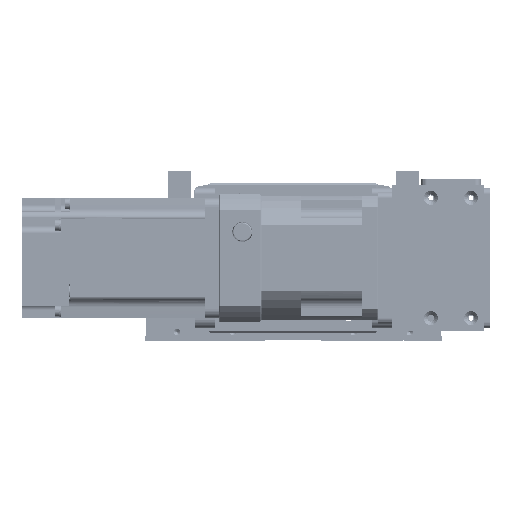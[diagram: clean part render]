
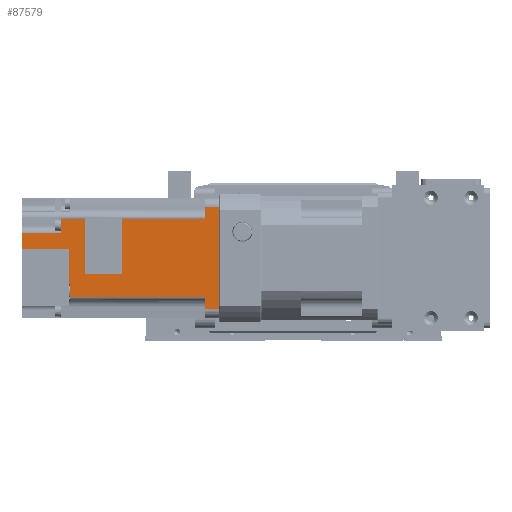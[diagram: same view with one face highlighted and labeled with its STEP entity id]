
A CAD part, front view. The second image highlights one B-rep face of the part: STEP entity #87579.
In plain terms, the highlighted planar face has unit normal (0, -1, 0).
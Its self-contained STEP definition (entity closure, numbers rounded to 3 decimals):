
#6697=FACE_OUTER_BOUND('',#11782,.T.);
#11782=EDGE_LOOP('',(#70858,#70859,#70860,#70861,#70862,#70863,#70864,#70865,
#70866,#70867,#70868,#70869,#70870,#70871,#70872,#70873,#70874,#70875,#70876,
#70877));
#21055=LINE('',#140799,#30494);
#21086=LINE('',#140919,#30525);
#21089=LINE('',#140930,#30528);
#21129=LINE('',#141045,#30568);
#21190=LINE('',#141255,#30629);
#21191=LINE('',#141260,#30630);
#21192=LINE('',#141262,#30631);
#21193=LINE('',#141263,#30632);
#21194=LINE('',#141265,#30633);
#21195=LINE('',#141267,#30634);
#21196=LINE('',#141269,#30635);
#21197=LINE('',#141271,#30636);
#21198=LINE('',#141273,#30637);
#21199=LINE('',#141275,#30638);
#21200=LINE('',#141277,#30639);
#21201=LINE('',#141279,#30640);
#21202=LINE('',#141280,#30641);
#21203=LINE('',#141282,#30642);
#21204=LINE('',#141284,#30643);
#21205=LINE('',#141285,#30644);
#30494=VECTOR('',#111612,51.);
#30525=VECTOR('',#111715,3.41);
#30528=VECTOR('',#111724,2.444);
#30568=VECTOR('',#111826,7.8);
#30629=VECTOR('',#112061,5.941);
#30630=VECTOR('',#112068,67.3);
#30631=VECTOR('',#112071,0.905);
#30632=VECTOR('',#112072,7.);
#30633=VECTOR('',#112073,7.);
#30634=VECTOR('',#112074,5.941);
#30635=VECTOR('',#112075,41.6);
#30636=VECTOR('',#112076,27.559);
#30637=VECTOR('',#112077,18.35);
#30638=VECTOR('',#112078,27.559);
#30639=VECTOR('',#112079,11.85);
#30640=VECTOR('',#112080,7.059);
#30641=VECTOR('',#112081,19.5);
#30642=VECTOR('',#112082,23.5);
#30643=VECTOR('',#112083,17.5);
#30644=VECTOR('',#112084,0.5);
#40113=VERTEX_POINT('',#140796);
#40114=VERTEX_POINT('',#140798);
#40164=VERTEX_POINT('',#140913);
#40166=VERTEX_POINT('',#140916);
#40167=VERTEX_POINT('',#140918);
#40172=VERTEX_POINT('',#140928);
#40215=VERTEX_POINT('',#141042);
#40216=VERTEX_POINT('',#141044);
#40277=VERTEX_POINT('',#141252);
#40278=VERTEX_POINT('',#141254);
#40280=VERTEX_POINT('',#141264);
#40281=VERTEX_POINT('',#141266);
#40282=VERTEX_POINT('',#141268);
#40283=VERTEX_POINT('',#141270);
#40284=VERTEX_POINT('',#141272);
#40285=VERTEX_POINT('',#141274);
#40286=VERTEX_POINT('',#141276);
#40287=VERTEX_POINT('',#141278);
#40288=VERTEX_POINT('',#141281);
#40289=VERTEX_POINT('',#141283);
#50864=EDGE_CURVE('',#40113,#40114,#21055,.T.);
#50923=EDGE_CURVE('',#40166,#40167,#21086,.T.);
#50929=EDGE_CURVE('',#40172,#40164,#21089,.T.);
#50987=EDGE_CURVE('',#40215,#40216,#21129,.T.);
#51091=EDGE_CURVE('',#40278,#40277,#21190,.T.);
#51094=EDGE_CURVE('',#40278,#40172,#21191,.T.);
#51095=EDGE_CURVE('',#40164,#40166,#21192,.T.);
#51096=EDGE_CURVE('',#40277,#40114,#21193,.T.);
#51097=EDGE_CURVE('',#40113,#40280,#21194,.T.);
#51098=EDGE_CURVE('',#40281,#40280,#21195,.T.);
#51099=EDGE_CURVE('',#40281,#40282,#21196,.T.);
#51100=EDGE_CURVE('',#40282,#40283,#21197,.T.);
#51101=EDGE_CURVE('',#40283,#40284,#21198,.T.);
#51102=EDGE_CURVE('',#40284,#40285,#21199,.T.);
#51103=EDGE_CURVE('',#40286,#40285,#21200,.T.);
#51104=EDGE_CURVE('',#40287,#40286,#21201,.T.);
#51105=EDGE_CURVE('',#40216,#40287,#21202,.T.);
#51106=EDGE_CURVE('',#40215,#40288,#21203,.T.);
#51107=EDGE_CURVE('',#40289,#40288,#21204,.T.);
#51108=EDGE_CURVE('',#40167,#40289,#21205,.T.);
#70858=ORIENTED_EDGE('',*,*,#51095,.F.);
#70859=ORIENTED_EDGE('',*,*,#50929,.F.);
#70860=ORIENTED_EDGE('',*,*,#51094,.F.);
#70861=ORIENTED_EDGE('',*,*,#51091,.T.);
#70862=ORIENTED_EDGE('',*,*,#51096,.T.);
#70863=ORIENTED_EDGE('',*,*,#50864,.F.);
#70864=ORIENTED_EDGE('',*,*,#51097,.T.);
#70865=ORIENTED_EDGE('',*,*,#51098,.F.);
#70866=ORIENTED_EDGE('',*,*,#51099,.T.);
#70867=ORIENTED_EDGE('',*,*,#51100,.T.);
#70868=ORIENTED_EDGE('',*,*,#51101,.T.);
#70869=ORIENTED_EDGE('',*,*,#51102,.T.);
#70870=ORIENTED_EDGE('',*,*,#51103,.F.);
#70871=ORIENTED_EDGE('',*,*,#51104,.F.);
#70872=ORIENTED_EDGE('',*,*,#51105,.F.);
#70873=ORIENTED_EDGE('',*,*,#50987,.F.);
#70874=ORIENTED_EDGE('',*,*,#51106,.T.);
#70875=ORIENTED_EDGE('',*,*,#51107,.F.);
#70876=ORIENTED_EDGE('',*,*,#51108,.F.);
#70877=ORIENTED_EDGE('',*,*,#50923,.F.);
#83273=PLANE('',#95154);
#87579=ADVANCED_FACE('',(#6697),#83273,.F.);
#95154=AXIS2_PLACEMENT_3D('',#141261,#112069,#112070);
#111612=DIRECTION('',(1.,0.,0.));
#111715=DIRECTION('',(-1.,0.,0.));
#111724=DIRECTION('',(-1.,0.,0.));
#111826=DIRECTION('',(-1.,0.,0.));
#112061=DIRECTION('',(1.,0.,0.));
#112068=DIRECTION('',(0.,0.,-1.));
#112069=DIRECTION('center_axis',(0.,1.,0.));
#112070=DIRECTION('ref_axis',(-1.,0.,0.));
#112071=DIRECTION('',(-1.,0.,0.));
#112072=DIRECTION('',(0.,0.,1.));
#112073=DIRECTION('',(0.,0.,-1.));
#112074=DIRECTION('',(-1.,0.,0.));
#112075=DIRECTION('',(0.,0.,-1.));
#112076=DIRECTION('',(1.,0.,0.));
#112077=DIRECTION('',(0.,0.,-1.));
#112078=DIRECTION('',(-1.,0.,0.));
#112079=DIRECTION('',(0.,0.,1.));
#112080=DIRECTION('',(-1.,0.,0.));
#112081=DIRECTION('',(0.,0.,1.));
#112082=DIRECTION('',(0.,0.,1.));
#112083=DIRECTION('',(-1.,0.,0.));
#112084=DIRECTION('',(0.,0.,-1.));
#140796=CARTESIAN_POINT('',(-25.5,-30.,0.));
#140798=CARTESIAN_POINT('',(25.5,-30.,0.));
#140799=CARTESIAN_POINT('',(-25.5,-30.,0.));
#140913=CARTESIAN_POINT('',(17.115,-30.,-74.3));
#140916=CARTESIAN_POINT('',(16.21,-30.,-74.3));
#140918=CARTESIAN_POINT('',(12.8,-30.,-74.3));
#140919=CARTESIAN_POINT('',(16.21,-30.,-74.3));
#140928=CARTESIAN_POINT('',(19.559,-30.,-74.3));
#140930=CARTESIAN_POINT('',(19.559,-30.,-74.3));
#141042=CARTESIAN_POINT('',(-4.7,-30.,-98.3));
#141044=CARTESIAN_POINT('',(-12.5,-30.,-98.3));
#141045=CARTESIAN_POINT('',(-4.7,-30.,-98.3));
#141252=CARTESIAN_POINT('',(25.5,-30.,-7.));
#141254=CARTESIAN_POINT('',(19.559,-30.,-7.));
#141255=CARTESIAN_POINT('',(19.559,-30.,-7.));
#141260=CARTESIAN_POINT('',(19.559,-30.,-7.));
#141261=CARTESIAN_POINT('Origin',(0.,-30.,-3.9));
#141262=CARTESIAN_POINT('',(17.115,-30.,-74.3));
#141263=CARTESIAN_POINT('',(25.5,-30.,-7.));
#141264=CARTESIAN_POINT('',(-25.5,-30.,-7.));
#141265=CARTESIAN_POINT('',(-25.5,-30.,0.));
#141266=CARTESIAN_POINT('',(-19.559,-30.,-7.));
#141267=CARTESIAN_POINT('',(-19.559,-30.,-7.));
#141268=CARTESIAN_POINT('',(-19.559,-30.,-48.6));
#141269=CARTESIAN_POINT('',(-19.559,-30.,-7.));
#141270=CARTESIAN_POINT('',(8.,-30.,-48.6));
#141271=CARTESIAN_POINT('',(-19.559,-30.,-48.6));
#141272=CARTESIAN_POINT('',(8.,-30.,-66.95));
#141273=CARTESIAN_POINT('',(8.,-30.,-48.6));
#141274=CARTESIAN_POINT('',(-19.559,-30.,-66.95));
#141275=CARTESIAN_POINT('',(8.,-30.,-66.95));
#141276=CARTESIAN_POINT('',(-19.559,-30.,-78.8));
#141277=CARTESIAN_POINT('',(-19.559,-30.,-78.8));
#141278=CARTESIAN_POINT('',(-12.5,-30.,-78.8));
#141279=CARTESIAN_POINT('',(-12.5,-30.,-78.8));
#141280=CARTESIAN_POINT('',(-12.5,-30.,-98.3));
#141281=CARTESIAN_POINT('',(-4.7,-30.,-74.8));
#141282=CARTESIAN_POINT('',(-4.7,-30.,-98.3));
#141283=CARTESIAN_POINT('',(12.8,-30.,-74.8));
#141284=CARTESIAN_POINT('',(12.8,-30.,-74.8));
#141285=CARTESIAN_POINT('',(12.8,-30.,-74.3));
